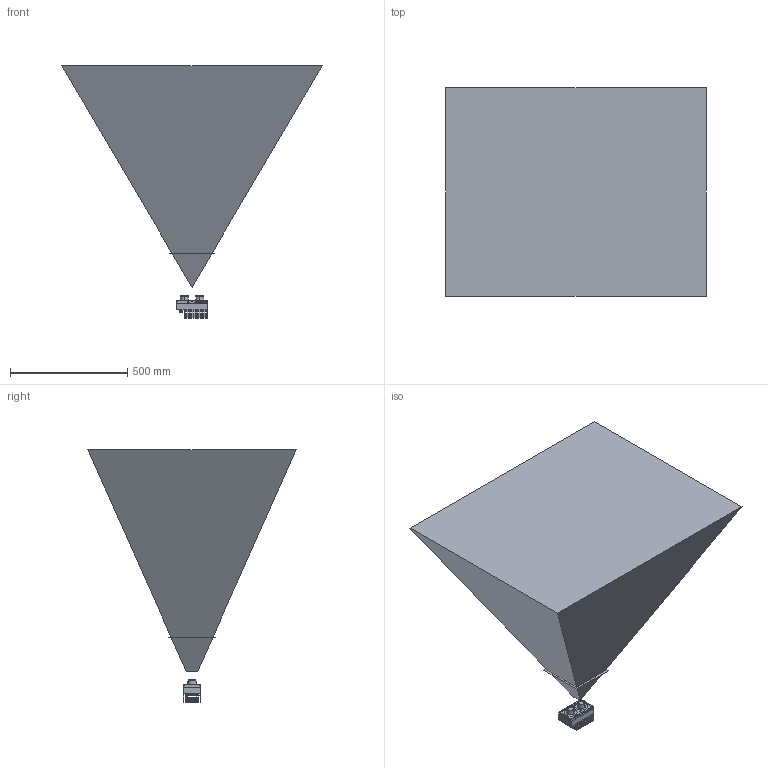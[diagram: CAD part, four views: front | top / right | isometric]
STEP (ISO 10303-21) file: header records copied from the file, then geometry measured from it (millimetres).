
FILE_DESCRIPTION((''),'2;1');
FILE_NAME('RC_VISARD65_VIS_ASM','2022-07-18T09:52:38',('seibold'),(''),'CREO PARAMETRIC BY PTC INC, 2018500','CREO PARAMETRIC BY PTC INC, 2018500','');
FILE_SCHEMA(('AUTOMOTIVE_DESIGN { 1 0 10303 214 1 1 1 1 }'));
Products named in the file (7): RC_VISARD65; RC_VISARD65_VISPYRAMID; KT_PHOENIX_H01; KT_PHOENIX_1412080; KT_PHOENIX_M12FS-8P_1411953; KT_PHOENIX_M12MS-8P_1411959; RC_VISARD65_VIS_ASM
Assembly tree (6 placements, depth 2):
  RC_VISARD65_VIS_ASM
    RC_VISARD65
    RC_VISARD65_VISPYRAMID
    KT_PHOENIX_H01
    KT_PHOENIX_1412080
    KT_PHOENIX_M12FS-8P_1411953
    KT_PHOENIX_M12MS-8P_1411959
Bounding box: 1113.09 x 890.46 x 1078 mm (x, y, z)
Volume: 248898 mm3; surface area: 3322359.5 mm2
Topology: 5 solids, 7 shells, 3021 faces, 8119 edges, 5276 vertices
Faces by surface type: plane 1873, cylinder 541, extrusion 304, cone 164, torus 89, bspline 50
Entity records: 133040 total; most frequent: CARTESIAN_POINT 27139, ORIENTED_EDGE 16218, DIRECTION 14240, PRESENTATION_STYLE_ASSIGNMENT 8329, EDGE_CURVE 8113, STYLED_ITEM 7729, CURVE_STYLE 7720, VECTOR 6024
